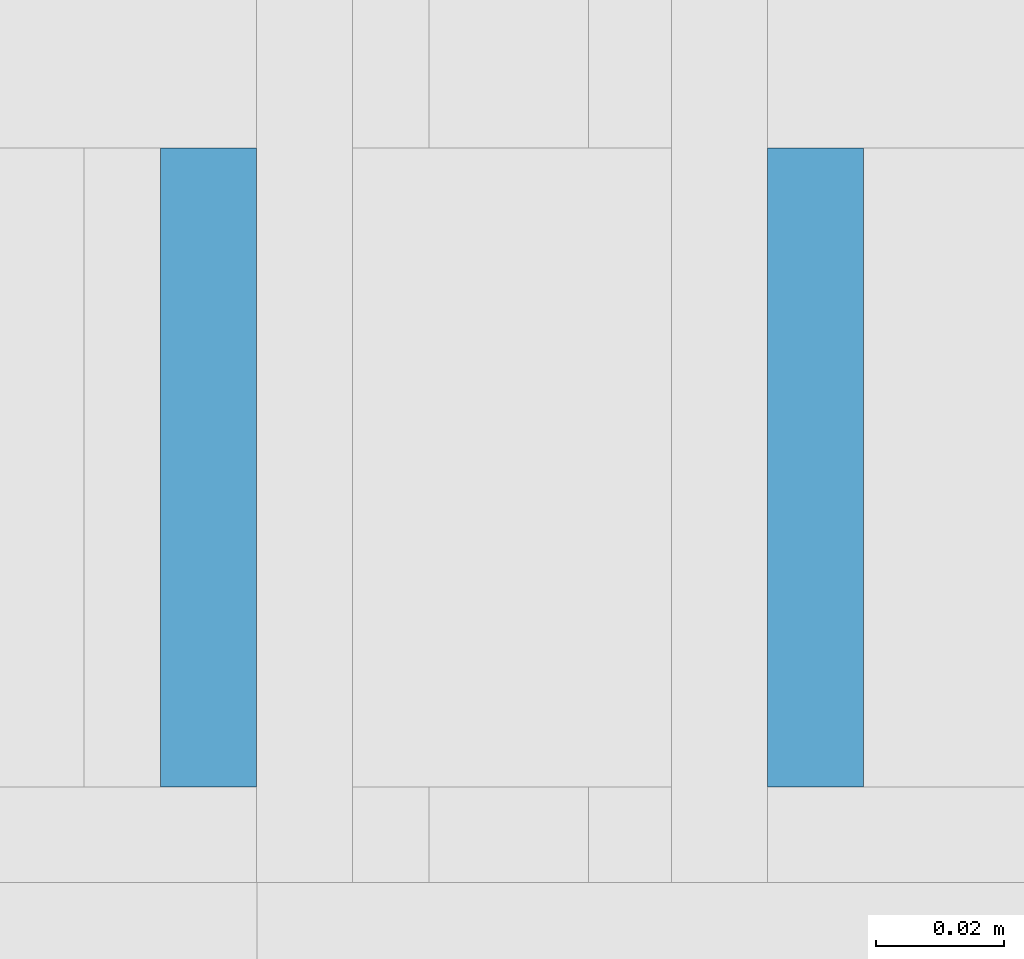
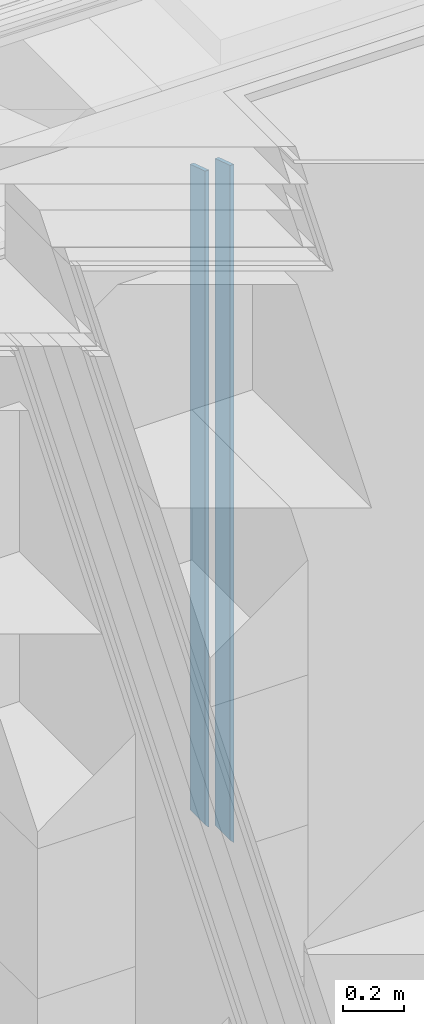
# One storey, part 157 of 583: 2 building element parts, 1 element without a shape of its own.
"""IFC2X3 building model written with IfcOpenShell, lengths in metres."""

from ifc_helpers import new_model, entity, si_unit, converted_unit, derived_unit, money_unit, direction, frame, origin_with_axes, place, context, subcontext, project, spatial, polyline, outline, extrude, clip, halfspace, material, type_object, element, aggregate, save


model = new_model("IFC2X3")

# Units and contexts
model_context = context("Model", 3, precision=1e-05, world=origin_with_axes(), true_north=direction((0.0, 1.0)))
body_context = subcontext(model_context, "Body", "Model", "MODEL_VIEW", scale=1.0)
ifc_project = project(units=[si_unit("LENGTHUNIT", "METRE"), si_unit("AREAUNIT", "SQUARE_METRE"), si_unit("VOLUMEUNIT", "CUBIC_METRE"), si_unit("ABSORBEDDOSEUNIT", "GRAY"), si_unit("AMOUNTOFSUBSTANCEUNIT", "MOLE"), si_unit("DOSEEQUIVALENTUNIT", "SIEVERT"), si_unit("ELECTRICCAPACITANCEUNIT", "FARAD"), si_unit("ELECTRICCHARGEUNIT", "COULOMB"), si_unit("ELECTRICCONDUCTANCEUNIT", "SIEMENS"), si_unit("ELECTRICCURRENTUNIT", "AMPERE"), si_unit("ELECTRICRESISTANCEUNIT", "OHM"), si_unit("ELECTRICVOLTAGEUNIT", "VOLT"), si_unit("ENERGYUNIT", "JOULE"), si_unit("FORCEUNIT", "NEWTON"), si_unit("FREQUENCYUNIT", "HERTZ"), si_unit("ILLUMINANCEUNIT", "LUX"), si_unit("INDUCTANCEUNIT", "HENRY"), si_unit("LUMINOUSFLUXUNIT", "LUMEN"), si_unit("LUMINOUSINTENSITYUNIT", "CANDELA"), si_unit("MAGNETICFLUXDENSITYUNIT", "TESLA"), si_unit("MAGNETICFLUXUNIT", "WEBER"), si_unit("MASSUNIT", "GRAM"), converted_unit("PLANEANGLEUNIT", "degree", entity("IfcReal", 0.0174532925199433), si_unit("PLANEANGLEUNIT", "RADIAN"), dimensions=[0, 0, 0, 0, 0, 0, 0]), si_unit("POWERUNIT", "WATT"), si_unit("PRESSUREUNIT", "PASCAL"), si_unit("RADIOACTIVITYUNIT", "BECQUEREL"), si_unit("SOLIDANGLEUNIT", "STERADIAN"), si_unit("THERMODYNAMICTEMPERATUREUNIT", "KELVIN"), si_unit("TIMEUNIT", "SECOND"), derived_unit("ACCELERATIONUNIT", [(si_unit("LENGTHUNIT", "METRE"), 1), (si_unit("TIMEUNIT", "SECOND"), -2)]), derived_unit("ANGULARVELOCITYUNIT", [(converted_unit("PLANEANGLEUNIT", "degree", entity("IfcReal", 0.0174532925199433), si_unit("PLANEANGLEUNIT", "RADIAN"), dimensions=[0, 0, 0, 0, 0, 0, 0]), 1), (si_unit("TIMEUNIT", "SECOND"), -1)]), derived_unit("CURVATUREUNIT", [(converted_unit("PLANEANGLEUNIT", "degree", entity("IfcReal", 0.0174532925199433), si_unit("PLANEANGLEUNIT", "RADIAN"), dimensions=[0, 0, 0, 0, 0, 0, 0]), 1), (si_unit("LENGTHUNIT", "METRE"), -1)]), derived_unit("DYNAMICVISCOSITYUNIT", [(si_unit("PRESSUREUNIT", "PASCAL"), 1), (si_unit("TIMEUNIT", "SECOND"), 1)]), derived_unit("HEATFLUXDENSITYUNIT", [(si_unit("POWERUNIT", "WATT"), 1), (si_unit("LENGTHUNIT", "METRE"), -2)]), derived_unit("HEATINGVALUEUNIT", [(si_unit("ENERGYUNIT", "JOULE"), 1), (si_unit("MASSUNIT", "GRAM"), -1)]), derived_unit("INTEGERCOUNTRATEUNIT", [(si_unit("TIMEUNIT", "SECOND"), -1)]), derived_unit("IONCONCENTRATIONUNIT", [(si_unit("MASSUNIT", "GRAM"), 1), (si_unit("VOLUMEUNIT", "CUBIC_METRE"), -1)]), derived_unit("ISOTHERMALMOISTURECAPACITYUNIT", [(si_unit("VOLUMEUNIT", "CUBIC_METRE"), 1), (si_unit("MASSUNIT", "GRAM"), -1)]), derived_unit("KINEMATICVISCOSITYUNIT", [(si_unit("AREAUNIT", "SQUARE_METRE"), 1), (si_unit("TIMEUNIT", "SECOND"), -1)]), derived_unit("LINEARFORCEUNIT", [(si_unit("FORCEUNIT", "NEWTON"), 1), (si_unit("LENGTHUNIT", "METRE"), -1)]), derived_unit("LINEARMOMENTUNIT", [(si_unit("FORCEUNIT", "NEWTON"), 1), (si_unit("LENGTHUNIT", "METRE"), -1)]), derived_unit("LINEARSTIFFNESSUNIT", [(si_unit("FORCEUNIT", "NEWTON"), 1), (si_unit("LENGTHUNIT", "METRE"), -1)]), derived_unit("LINEARVELOCITYUNIT", [(si_unit("LENGTHUNIT", "METRE"), 1), (si_unit("TIMEUNIT", "SECOND"), -1)]), derived_unit("LUMINOUSINTENSITYDISTRIBUTIONUNIT", [(si_unit("LUMINOUSINTENSITYUNIT", "CANDELA"), 1), (si_unit("LUMINOUSFLUXUNIT", "LUMEN"), -1)]), derived_unit("MASSDENSITYUNIT", [(si_unit("MASSUNIT", "GRAM"), 1), (si_unit("VOLUMEUNIT", "CUBIC_METRE"), -1)]), derived_unit("MASSFLOWRATEUNIT", [(si_unit("MASSUNIT", "GRAM"), 1), (si_unit("TIMEUNIT", "SECOND"), -1)]), derived_unit("MASSPERLENGTHUNIT", [(si_unit("MASSUNIT", "GRAM"), 1), (si_unit("LENGTHUNIT", "METRE"), -1)]), derived_unit("MODULUSOFELASTICITYUNIT", [(si_unit("FORCEUNIT", "NEWTON"), 1), (si_unit("AREAUNIT", "SQUARE_METRE"), -1)]), derived_unit("MODULUSOFLINEARSUBGRADEREACTIONUNIT", [(si_unit("FORCEUNIT", "NEWTON"), 1), (si_unit("LENGTHUNIT", "METRE"), -2)]), derived_unit("MODULUSOFROTATIONALSUBGRADEREACTIONUNIT", [(si_unit("FORCEUNIT", "NEWTON"), 1), (si_unit("LENGTHUNIT", "METRE"), 1)]), derived_unit("MODULUSOFSUBGRADEREACTIONUNIT", [(si_unit("FORCEUNIT", "NEWTON"), 1), (si_unit("VOLUMEUNIT", "CUBIC_METRE"), -1)]), derived_unit("MOISTUREDIFFUSIVITYUNIT", [(si_unit("VOLUMEUNIT", "CUBIC_METRE"), 1), (si_unit("TIMEUNIT", "SECOND"), -1)]), derived_unit("MOLECULARWEIGHTUNIT", [(si_unit("MASSUNIT", "GRAM"), 1), (si_unit("AMOUNTOFSUBSTANCEUNIT", "MOLE"), -1)]), derived_unit("PLANARFORCEUNIT", [(si_unit("FORCEUNIT", "NEWTON"), 1), (si_unit("LENGTHUNIT", "METRE"), -2)]), derived_unit("ROTATIONALFREQUENCYUNIT", [(si_unit("TIMEUNIT", "SECOND"), -1)]), derived_unit("ROTATIONALMASSUNIT", [(si_unit("MASSUNIT", "GRAM"), 1), (si_unit("LENGTHUNIT", "METRE"), 2)]), derived_unit("ROTATIONALSTIFFNESSUNIT", [(si_unit("FORCEUNIT", "NEWTON"), 1), (si_unit("LENGTHUNIT", "METRE"), 1), (converted_unit("PLANEANGLEUNIT", "degree", entity("IfcReal", 0.0174532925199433), si_unit("PLANEANGLEUNIT", "RADIAN"), dimensions=[0, 0, 0, 0, 0, 0, 0]), -1)]), derived_unit("SECTIONAREAINTEGRALUNIT", [(si_unit("LENGTHUNIT", "METRE"), 5)]), derived_unit("SECTIONMODULUSUNIT", [(si_unit("LENGTHUNIT", "METRE"), 3)]), derived_unit("SHEARMODULUSUNIT", [(si_unit("FORCEUNIT", "NEWTON"), 1), (si_unit("AREAUNIT", "SQUARE_METRE"), -1)]), derived_unit("SOUNDPOWERUNIT", [(si_unit("ENERGYUNIT", "JOULE"), 1), (si_unit("TIMEUNIT", "SECOND"), -1)]), derived_unit("SPECIFICHEATCAPACITYUNIT", [(si_unit("FORCEUNIT", "NEWTON"), 1), (si_unit("MASSUNIT", "GRAM"), -1), (si_unit("THERMODYNAMICTEMPERATUREUNIT", "KELVIN"), -1)]), derived_unit("TEMPERATUREGRADIENTUNIT", [(si_unit("THERMODYNAMICTEMPERATUREUNIT", "KELVIN"), 1), (si_unit("LENGTHUNIT", "METRE"), -1)]), derived_unit("THERMALADMITTANCEUNIT", [(si_unit("POWERUNIT", "WATT"), 1), (si_unit("AREAUNIT", "SQUARE_METRE"), -1), (si_unit("THERMODYNAMICTEMPERATUREUNIT", "KELVIN"), -1)]), derived_unit("THERMALCONDUCTANCEUNIT", [(si_unit("POWERUNIT", "WATT"), 1), (si_unit("LENGTHUNIT", "METRE"), -1), (si_unit("THERMODYNAMICTEMPERATUREUNIT", "KELVIN"), -1)]), derived_unit("THERMALEXPANSIONCOEFFICIENTUNIT", [(si_unit("THERMODYNAMICTEMPERATUREUNIT", "KELVIN"), -1)]), derived_unit("THERMALRESISTANCEUNIT", [(si_unit("AREAUNIT", "SQUARE_METRE"), 1), (si_unit("POWERUNIT", "WATT"), -1)]), derived_unit("THERMALTRANSMITTANCEUNIT", [(si_unit("POWERUNIT", "WATT"), 1), (si_unit("AREAUNIT", "SQUARE_METRE"), -1), (si_unit("THERMODYNAMICTEMPERATUREUNIT", "KELVIN"), -1)]), derived_unit("TORQUEUNIT", [(si_unit("FORCEUNIT", "NEWTON"), 1), (si_unit("LENGTHUNIT", "METRE"), 1)]), derived_unit("VAPORPERMEABILITYUNIT", [(si_unit("MASSUNIT", "GRAM"), 1), (si_unit("TIMEUNIT", "SECOND"), -1)]), derived_unit("VOLUMETRICFLOWRATEUNIT", [(si_unit("VOLUMEUNIT", "CUBIC_METRE"), 1), (si_unit("TIMEUNIT", "SECOND"), -1)]), derived_unit("WARPINGCONSTANTUNIT", [(si_unit("LENGTHUNIT", "METRE"), 6)]), derived_unit("WARPINGMOMENTUNIT", [(si_unit("FORCEUNIT", "NEWTON"), 1), (si_unit("LENGTHUNIT", "METRE"), 2)]), money_unit("GBP")], contexts=[model_context])

# Site, building, storey
site_placement = place(None, origin_with_axes())
site = spatial("IfcSite", under=ifc_project, at=site_placement, Name="Site", CompositionType="ELEMENT")
building_placement = place(site_placement, origin_with_axes())
building = spatial("IfcBuilding", under=site, at=building_placement, Name="Building01", CompositionType="ELEMENT")
storey_placement = place(building_placement, frame((0.0, 0.0, 20.78), z_axis=(0.0, 0.0, 1.0), x_axis=(1.0, 0.0, 0.0)))
storey = spatial("IfcBuildingStorey", under=building, at=storey_placement, Name="RL", CompositionType="ELEMENT", Elevation=20.78)

# Wall, building element parts
wall_type = type_object("IfcWallType", Name="SHE_A-Walls_Type05b_Partition_80mm", PredefinedType="NOTDEFINED")
wall_placement = place(storey_placement, frame((9.672024, 14.98, 3.023), z_axis=(0.0, 1.0, 0.0), x_axis=(0.0, 0.0, 1.0)))
wall = element("IfcWall", 1, at=wall_placement, inside=storey, type_object=wall_type, Name="5B", ObjectType="SHE_A-Walls_Type05b_Partition_80mm")
ifc_material = material(Name="A_BSUK_Walls_Timber")
placement = place(wall_placement, origin_with_axes())
building_element_part_1 = element("IfcBuildingElementPart", 2, at=placement, material=ifc_material, Name="2", context=body_context, shape_type="Clipping", body=[
    clip(extrude(outline(polyline([(2.64827, 0.068), (-0.068, 0.068), (-0.053, 0.053), (2.64827, 0.053), (2.64827, 0.068)])), frame((0.0, 0.0, 0.015), z_axis=(0.0, 0.0, 1.0), x_axis=(1.0, 0.0, 0.0)), (0.0, 0.0, 1.0), 0.1), halfspace(frame((2.399791, 0.0, 0.779739), z_axis=(-0.95105652, 0.0, -0.30901699), x_axis=(0.0, -1.0, 0.0)), True)),
])
building_element_part_2 = element("IfcBuildingElementPart", 3, at=placement, material=ifc_material, Name="5", context=body_context, shape_type="Clipping", body=[
    clip(extrude(outline(polyline([(2.658784, -0.027), (0.027, -0.027), (0.042, -0.042), (2.658784, -0.042), (2.658784, -0.027)])), frame((0.0, 0.0, 0.015), z_axis=(0.0, 0.0, 1.0), x_axis=(1.0, 0.0, 0.0)), (0.0, 0.0, 1.0), 0.1), halfspace(frame((2.409301, 0.0, 0.782829), z_axis=(-0.95105652, 0.0, -0.30901699), x_axis=(0.0, -1.0, 0.0)), True)),
])
aggregate(wall, [building_element_part_1, building_element_part_2])

save(model, "model.ifc")
